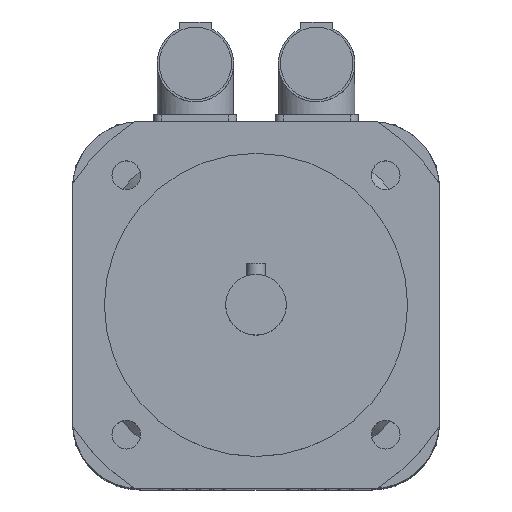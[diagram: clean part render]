
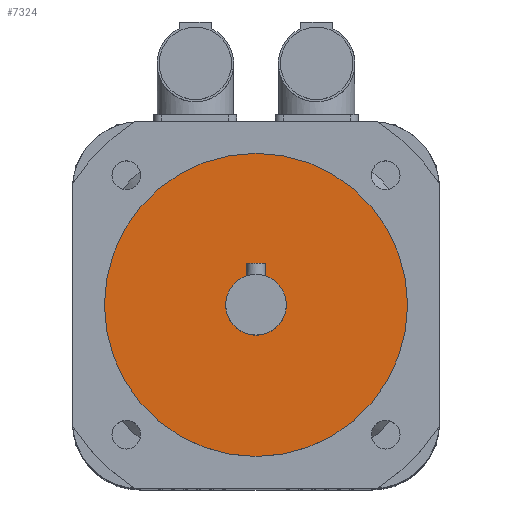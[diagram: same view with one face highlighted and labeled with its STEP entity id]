
A CAD part, top view. The second image highlights one B-rep face of the part: STEP entity #7324.
In plain terms, the highlighted planar face has unit normal (0, 0, 1).
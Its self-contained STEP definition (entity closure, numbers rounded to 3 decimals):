
#60=FACE_BOUND('',#993,.T.);
#151=CIRCLE('',#7810,9.5);
#152=CIRCLE('',#7812,47.5);
#524=FACE_OUTER_BOUND('',#992,.T.);
#992=EDGE_LOOP('',(#5019));
#993=EDGE_LOOP('',(#5020));
#3155=VERTEX_POINT('',#11148);
#3156=VERTEX_POINT('',#11151);
#3882=EDGE_CURVE('',#3155,#3155,#151,.T.);
#3883=EDGE_CURVE('',#3156,#3156,#152,.T.);
#5019=ORIENTED_EDGE('',*,*,#3883,.F.);
#5020=ORIENTED_EDGE('',*,*,#3882,.T.);
#6956=PLANE('',#7811);
#7324=ADVANCED_FACE('',(#524,#60),#6956,.T.);
#7810=AXIS2_PLACEMENT_3D('',#11149,#8756,#8757);
#7811=AXIS2_PLACEMENT_3D('',#11150,#8758,#8759);
#7812=AXIS2_PLACEMENT_3D('',#11152,#8760,#8761);
#8756=DIRECTION('center_axis',(0.,0.,-1.));
#8757=DIRECTION('ref_axis',(1.,0.,0.));
#8758=DIRECTION('center_axis',(0.,0.,1.));
#8759=DIRECTION('ref_axis',(1.,0.,0.));
#8760=DIRECTION('center_axis',(0.,0.,-1.));
#8761=DIRECTION('ref_axis',(1.,0.,0.));
#11148=CARTESIAN_POINT('',(0.,9.5,213.));
#11149=CARTESIAN_POINT('Origin',(0.,0.,213.));
#11150=CARTESIAN_POINT('Origin',(0.,47.5,213.));
#11151=CARTESIAN_POINT('',(0.,47.5,213.));
#11152=CARTESIAN_POINT('Origin',(0.,0.,213.));
